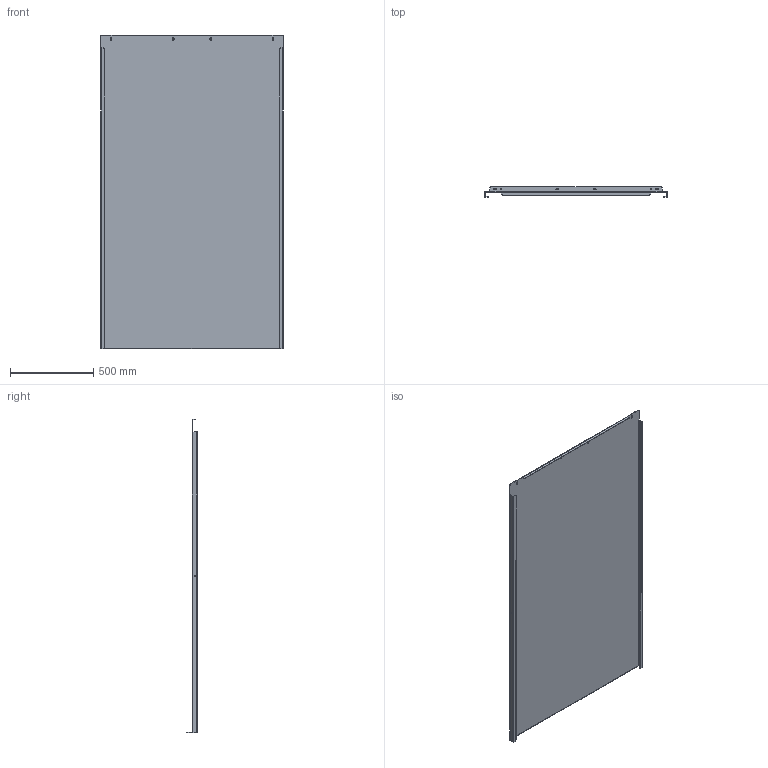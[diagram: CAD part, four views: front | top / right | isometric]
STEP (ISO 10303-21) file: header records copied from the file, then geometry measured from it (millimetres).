
FILE_DESCRIPTION((''),'2;1');
FILE_NAME('MODEL-101_ASM','2014-07-25T',('joelb'),('SAGINAW CONTROL & ENGINEERING'),'PRO/ENGINEER BY PARAMETRIC TECHNOLOGY CORPORATION, 2012070','PRO/ENGINEER BY PARAMETRIC TECHNOLOGY CORPORATION, 2012070','');
FILE_SCHEMA(('AUTOMOTIVE_DESIGN { 1 0 10303 214 1 1 1 1 }'));
Length unit declared in the file: inch
Products named in the file (3): MODEL-101-SUBPANEL; 108625; MODEL-101_ASM
Assembly tree (2 placements, depth 2):
  MODEL-101_ASM
    MODEL-101-SUBPANEL
    108625
Bounding box: 1100 x 63.5 x 1887.5 mm (x, y, z)
Volume: 6046089.5 mm3; surface area: 4595189.7 mm2
Topology: 1 solids, 1 shells, 124 faces, 318 edges, 196 vertices
Faces by surface type: plane 66, cylinder 46, bspline 12
Entity records: 5126 total; most frequent: CARTESIAN_POINT 963, DIRECTION 644, ORIENTED_EDGE 636, PRESENTATION_STYLE_ASSIGNMENT 319, STYLED_ITEM 319, CURVE_STYLE 318, EDGE_CURVE 318, AXIS2_PLACEMENT_3D 217
